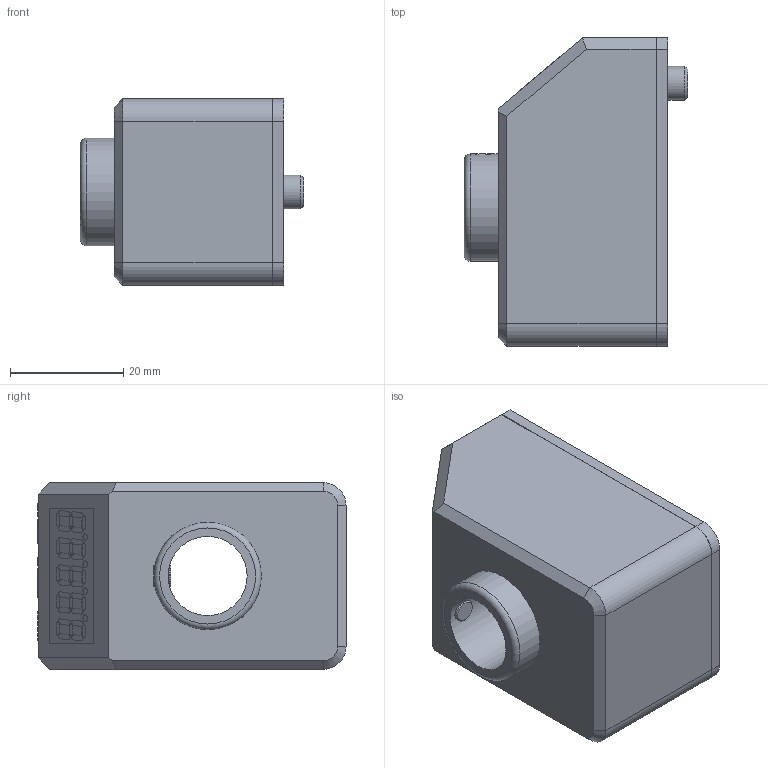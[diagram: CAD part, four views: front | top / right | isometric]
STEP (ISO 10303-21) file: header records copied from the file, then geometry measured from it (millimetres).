
FILE_DESCRIPTION( ( 'STEP AP203' ), '1' );
FILE_NAME( 'C:/Temp/Ganter_Step_05_03_2020/data/1_4/gn_9054/Position indicator GN 9054-1-GR.stp', '2020-03-05T10:58:19', ( 'License CC BY-ND 4.0' ), ( 'CADENAS' ), ' ', 'PARTsolutions', ' ' );
FILE_SCHEMA( ( 'CONFIG_CONTROL_DESIGN' ) );
Length unit declared in the file: millimetre
Products named in the file (1): _Position indicator GN 9054-1-GR
Bounding box: 39.5 x 54.52 x 33 mm (x, y, z)
Volume: 46505.1 mm3; surface area: 10686.8 mm2
Topology: 1 solids, 1 shells, 632 faces, 1665 edges, 1108 vertices
Faces by surface type: plane 330, cylinder 295, cone 6, torus 1
Full cylindrical faces by diameter (mm): 1.2 x4, 4 x1, 5.04 x1, 6 x1, 14 x1, 16.5 x1, 19 x1
Entity records: 19704 total; most frequent: DIRECTION 3500, CARTESIAN_POINT 3488, ORIENTED_EDGE 3294, EDGE_CURVE 1647, AXIS2_PLACEMENT_3D 1227, VERTEX_POINT 1103, LINE 1046, VECTOR 1046
